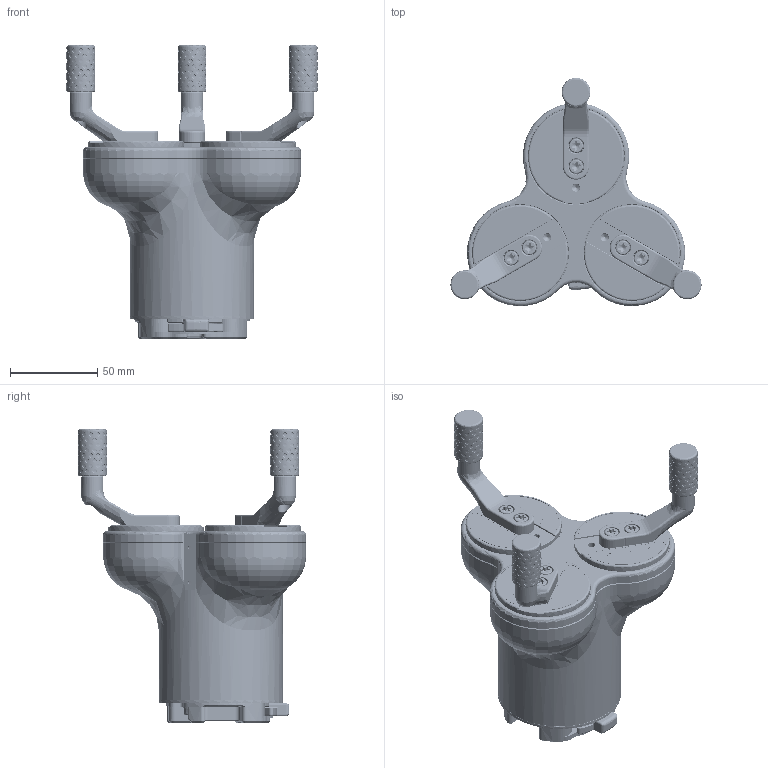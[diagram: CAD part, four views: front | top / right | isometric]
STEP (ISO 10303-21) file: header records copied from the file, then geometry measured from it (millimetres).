
FILE_DESCRIPTION (( 'STEP AP214' ), '1' );
FILE_NAME ('8207.STEP', '2024-07-17T14:26:03', ( '' ), ( '' ), 'SwSTEP 2.0', 'SolidWorks 2022', '' );
FILE_SCHEMA (( 'AUTOMOTIVE_DESIGN' ));
Length unit declared in the file: millimetre
Products named in the file (5): 3FG25-body_3FG25-body; 3FG25 NBR Coated Fingertip_3FG25-NBR Coated Fingertip; 3FG25 Finger _3FG25 Finger; 3FG25-Jaw_3FG25-Jaw; 8207
Assembly tree (10 placements, depth 2):
  8207
    3FG25-body_3FG25-body
    3FG25-Jaw_3FG25-Jaw  x3
    3FG25 Finger _3FG25 Finger  x3
    3FG25 NBR Coated Fingertip_3FG25-NBR Coated Fingertip  x3
Bounding box: 143.98 x 130.83 x 168.2 mm (x, y, z)
Volume: 642442.7 mm3; surface area: 135126.5 mm2
Topology: 87 solids, 105 shells, 7743 faces, 18656 edges, 11488 vertices
Faces by surface type: bspline 5491, cylinder 1046, plane 770, cone 330, torus 82, sphere 24
Full cylindrical faces by diameter (mm): 0.432 x12, 0.813 x12, 0.993 x12, 1.049 x12, 1.059 x12, 1.372 x12, 1.422 x24, 1.445 x12, 1.481 x12, 1.676 x12, 2.05 x4, 2.5 x7, 3 x1, 3.1 x2, 3.3 x3, 4 x3, 4.2 x14, 4.3 x3, 5 x6, 5.3 x6, 5.8 x12, 6 x18, 6.2 x4, 6.6 x4, 7 x3, 7.4 x3, 9.2 x6, 10.4 x3, 11.1 x3, 12.5 x6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
Entity records: 199628 total; most frequent: CARTESIAN_POINT 100354, ORIENTED_EDGE 15056, DIRECTION 10328, EDGE_CURVE 7528, VERTEX_POINT 4821, AXIS2_PLACEMENT_3D 4521, EDGE_LOOP 4055, FACE_OUTER_BOUND 3666
